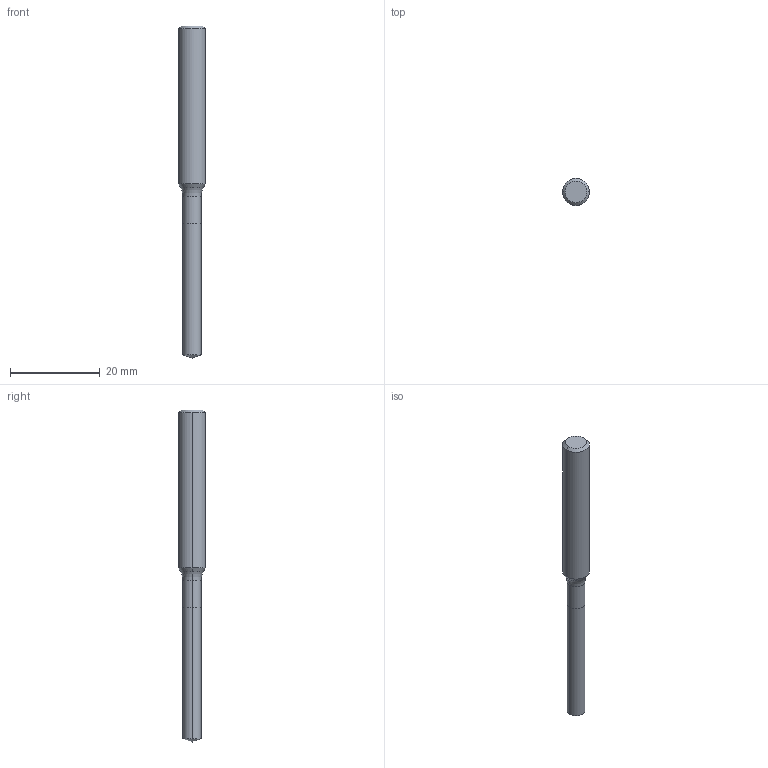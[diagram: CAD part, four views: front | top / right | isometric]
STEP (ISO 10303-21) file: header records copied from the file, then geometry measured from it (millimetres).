
FILE_DESCRIPTION (( 'STEP AP214' ), '1' );
FILE_NAME ('711.042.00_3D-model.step', '2022-02-22T18:30:14', ( '' ), ( '' ), 'SwSTEP 2.0', 'SolidWorks 2020', '' );
FILE_SCHEMA (( 'AUTOMOTIVE_DESIGN' ));
Length unit declared in the file: millimetre
Products named in the file (3): CUT-3D^Baugr66; NOCUT-3D^Baugr66; 711.042.00_3D-model
Assembly tree (2 placements, depth 2):
  711.042.00_3D-model
    CUT-3D^Baugr66
    NOCUT-3D^Baugr66
Bounding box: 6 x 6 x 74 mm (x, y, z)
Volume: 1492.4 mm3; surface area: 1213.9 mm2
Topology: 2 solids, 2 shells, 17 faces, 32 edges, 17 vertices
Faces by surface type: cone 6, cylinder 6, plane 3, torus 2
Entity records: 532 total; most frequent: DIRECTION 98, CARTESIAN_POINT 72, ORIENTED_EDGE 60, AXIS2_PLACEMENT_3D 43, EDGE_CURVE 30, CIRCLE 18, EDGE_LOOP 17, VERTEX_POINT 17
